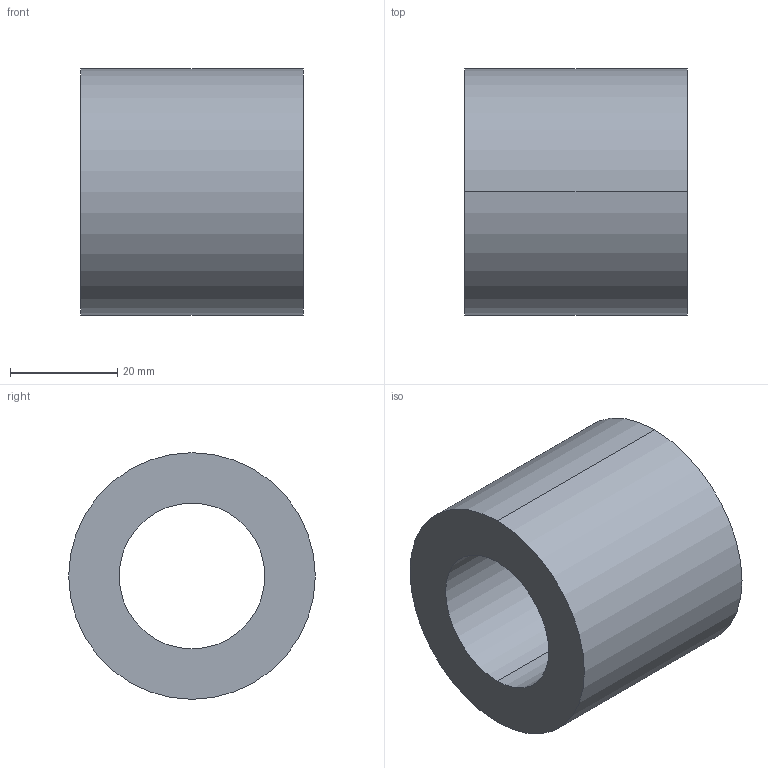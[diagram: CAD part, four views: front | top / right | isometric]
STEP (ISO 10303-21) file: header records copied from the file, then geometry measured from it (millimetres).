
FILE_DESCRIPTION (( 'STEP AP214' ), '1' );
FILE_NAME ('Half-coupling-25A.STEP', '2022-09-20T07:18:44', ( 'ASIS User' ), ( 'ASIS User' ), 'SwSTEP 2.0', 'SolidWorks 2022', '' );
FILE_SCHEMA (( 'AUTOMOTIVE_DESIGN' ));
Length unit declared in the file: millimetre
Products named in the file (1): Half-coupling-25A
Bounding box: 41.6 x 46 x 46 mm (x, y, z)
Volume: 40363.9 mm3; surface area: 12026.3 mm2
Topology: 1 solids, 1 shells, 9 faces, 18 edges, 12 vertices
Faces by surface type: cylinder 6, plane 3
Entity records: 282 total; most frequent: DIRECTION 50, CARTESIAN_POINT 40, ORIENTED_EDGE 36, AXIS2_PLACEMENT_3D 22, EDGE_CURVE 18, VERTEX_POINT 12, EDGE_LOOP 12, CIRCLE 12
